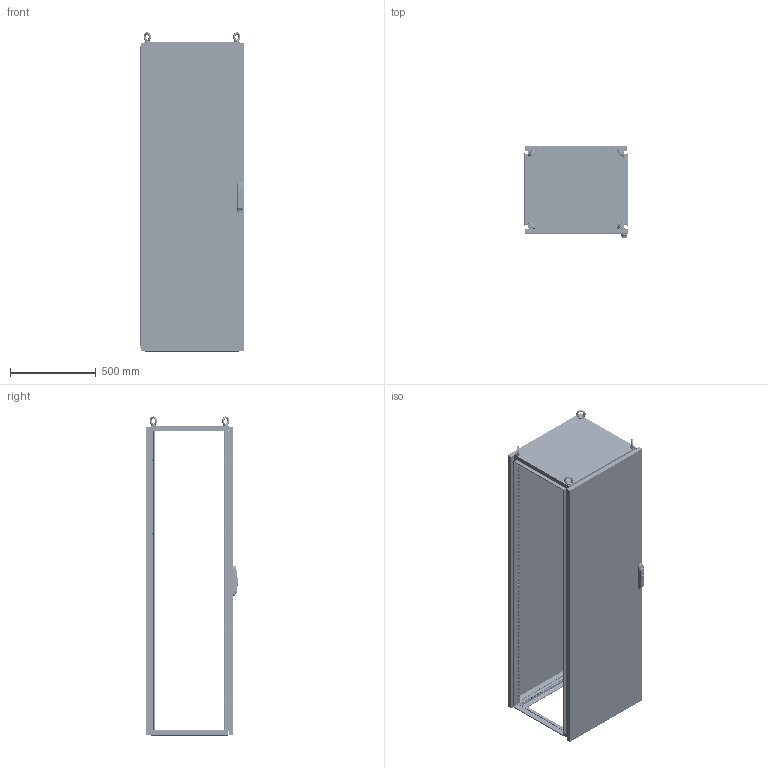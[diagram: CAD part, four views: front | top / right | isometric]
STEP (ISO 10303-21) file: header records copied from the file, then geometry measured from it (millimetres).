
FILE_DESCRIPTION(/* description */ ('Unknown'),/* implementation_level */ '2;1');
FILE_NAME(/* name */ 'MCA06018050',/* time_stamp */ '2025-03-06T16:18:26+01:00',/* author */ ('Unknown'),/* organization */ ('Unknown'),/* preprocessor_version */ 'ST-DEVELOPER v19.4',/* originating_system */ 'Solid Edge',/* authorisation */ 'Unknown');
FILE_SCHEMA (('CONFIG_CONTROL_DESIGN'));
Products named in the file (46): MCA06018050; F0000001.24; AE00198.03; M000X000.76; M0000000.29; AE00500.10; M000X000.47; M0000000.54; M0000000.44; M0000000.06; AE00219.03; AE00715.01; M000X000.60; M0000000.64; F000X002.06; F000X002.07; F0000001.47; F0000000.07; AE00100.03_oa_0; AE00100.03_oa_1; AE00100.03_oa_2; AE00100.03_oa_3; M0000000.37; AE00701.03; F0000000.13; F000X002.33; F000X002.34; F000X002.35; F0000001.64; F000X001.09; F0000002.21; F0000002.15; AE01400.01; AE00413.05; AE00417.01; F0000000.12; AE00222.15; AE00316.01; AE00992.10_oa_4; AE00992.31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
Assembly tree (190 placements, depth 5):
  MCA06018050
    F0000001.24  x4
    AE00198.03  x16
    M000X000.76
      M0000000.29  x4
      AE00500.10  x48
      M000X000.47  x2
        M0000000.54
        M0000000.44
        M0000000.06
    AE00219.03  x8
    AE00715.01  x4
    M000X000.60
      M0000000.64
    F000X002.06
      F000X002.07
        F0000001.47
      F0000000.07  x2
      AE00100.03_oa_0
      AE00100.03_oa_1
      AE00100.03_oa_2
      AE00100.03_oa_3
    M0000000.37  x8
    AE00701.03  x4
    F0000000.13  x4
    F000X002.33
      F000X002.34
        F000X002.35
          F0000001.64
        F000X001.09
          F0000002.21  x2
          F0000002.15  x2
          AE01400.01  x4
        AE00413.05  x4
        AE00417.01  x2
      F0000000.12  x8
      AE00222.15  x8
      AE00316.01  x8
      AE00992.10_oa_4
      AE00992.31
      AE00315.01  x4
      AE00992.74   x2
      AE00992.18  x4
      AE00992.16
      AE00636.02  x8
    F0000000.08  x4
Bounding box: 600 x 538.2 x 1856.92 mm (x, y, z)
Volume: 12899147.2 mm3; surface area: 11070176.4 mm2
Topology: 199 solids, 199 shells, 9604 faces, 27260 edges, 18203 vertices
Faces by surface type: plane 6849, cylinder 2149, cone 534, torus 42, sphere 16, bspline 14
Full cylindrical faces by diameter (mm): 2 x4, 3 x1, 3.242 x2, 4 x12, 4.134 x5, 4.25 x166, 4.5 x832, 4.917 x65, 4.918 x8, 5 x6, 6 x58, 6.1 x20, 6.2 x8, 6.5 x20, 7.5 x2, 8.3 x8, 8.5 x2, 9 x48, 10.106 x8, 10.5 x16, 11.8 x8, 12 x16, 13 x4, 14 x1, 16 x1, 17 x1, 23 x2, 30 x4
Entity records: 74430 total; most frequent: CARTESIAN_POINT 13057, ORIENTED_EDGE 11492, DIRECTION 11474, EDGE_CURVE 5746, LINE 4512, VECTOR 4512, VERTEX_POINT 4068, FACE_BOUND 3704
